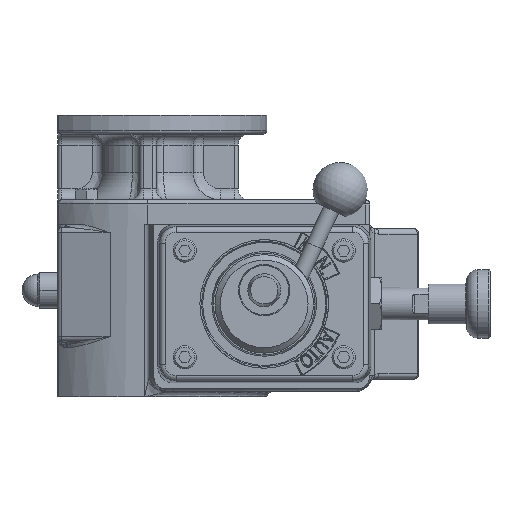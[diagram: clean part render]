
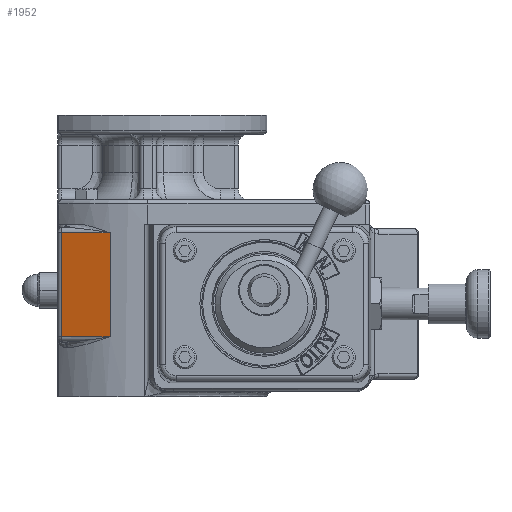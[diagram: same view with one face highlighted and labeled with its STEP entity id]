
A CAD part, front view. The second image highlights one B-rep face of the part: STEP entity #1952.
In plain terms, the highlighted planar face has unit normal (-0.317, -0.948, 0).
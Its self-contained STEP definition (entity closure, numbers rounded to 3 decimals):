
#1952 = ADVANCED_FACE( '', ( #5587 ), #5588, .F. );
#5587 = FACE_OUTER_BOUND( '', #12845, .T. );
#5588 = PLANE( '', #12846 );
#12845 = EDGE_LOOP( '', ( #40179, #40180, #40181, #40182 ) );
#12846 = AXIS2_PLACEMENT_3D( '', #40183, #40184, #40185 );
#40179 = ORIENTED_EDGE( '', *, *, #54138, .T. );
#40180 = ORIENTED_EDGE( '', *, *, #54139, .T. );
#40181 = ORIENTED_EDGE( '', *, *, #54140, .F. );
#40182 = ORIENTED_EDGE( '', *, *, #54141, .T. );
#40183 = CARTESIAN_POINT( '', ( -13.803, -41.252, 64. ) );
#40184 = DIRECTION( '', ( 0.317, 0.948, 0. ) );
#40185 = DIRECTION( '', ( 0.948, -0.317, 0. ) );
#54138 = EDGE_CURVE( '', #60011, #60012, #60013, .T. );
#54139 = EDGE_CURVE( '', #60012, #60014, #60015, .T. );
#54140 = EDGE_CURVE( '', #60016, #60014, #60017, .T. );
#54141 = EDGE_CURVE( '', #60016, #60011, #60018, .F. );
#60011 = VERTEX_POINT( '', #69168 );
#60012 = VERTEX_POINT( '', #69169 );
#60013 = LINE( '', #69170, #69171 );
#60014 = VERTEX_POINT( '', #69172 );
#60015 = LINE( '', #69173, #69174 );
#60016 = VERTEX_POINT( '', #69175 );
#60017 = LINE( '', #69176, #69177 );
#60018 = LINE( '', #69178, #69179 );
#69168 = CARTESIAN_POINT( '', ( -31.635, -35.286, 58. ) );
#69169 = CARTESIAN_POINT( '', ( -31.635, -35.286, 20. ) );
#69170 = CARTESIAN_POINT( '', ( -31.635, -35.286, 18. ) );
#69171 = VECTOR( '', #91007, 1000. );
#69172 = CARTESIAN_POINT( '', ( -13.803, -41.252, 20. ) );
#69173 = CARTESIAN_POINT( '', ( -13.803, -41.252, 20. ) );
#69174 = VECTOR( '', #91008, 1000. );
#69175 = CARTESIAN_POINT( '', ( -13.803, -41.252, 58. ) );
#69176 = CARTESIAN_POINT( '', ( -13.803, -41.252, 64. ) );
#69177 = VECTOR( '', #91009, 1000. );
#69178 = CARTESIAN_POINT( '', ( -13.803, -41.252, 58. ) );
#69179 = VECTOR( '', #91010, 1000. );
#91007 = DIRECTION( '', ( 0., 0., -1. ) );
#91008 = DIRECTION( '', ( 0.948, -0.317, 0. ) );
#91009 = DIRECTION( '', ( 0., 0., -1. ) );
#91010 = DIRECTION( '', ( 0.948, -0.317, 0. ) );
